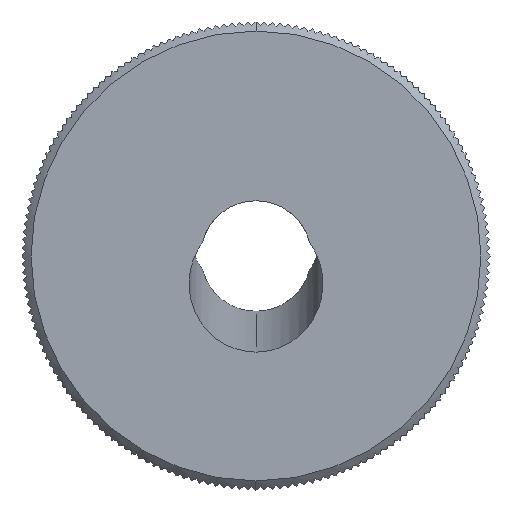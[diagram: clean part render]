
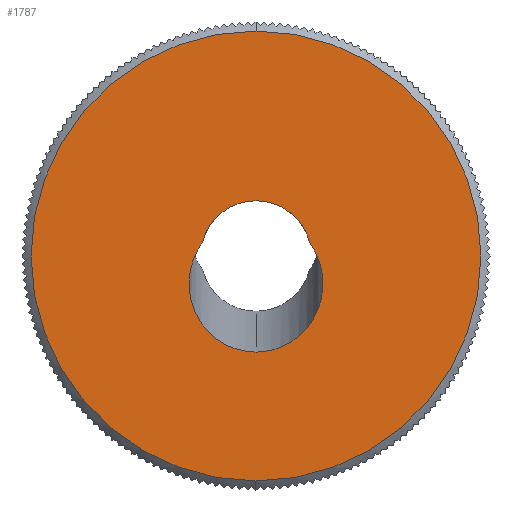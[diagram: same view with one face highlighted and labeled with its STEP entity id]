
A CAD part, left-side view. The second image highlights one B-rep face of the part: STEP entity #1787.
In plain terms, the highlighted planar face has unit normal (-1, 0, 0).
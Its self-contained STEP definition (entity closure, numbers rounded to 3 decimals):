
#241 = VERTEX_POINT ( 'NONE', #2675 ) ;
#1708 = EDGE_LOOP ( 'NONE', ( #4608, #1731, #1779, #1748 ) ) ;
#1711 = EDGE_CURVE ( 'NONE', #241, #4080, #7388, .T. ) ;
#1731 = ORIENTED_EDGE ( 'NONE', *, *, #4122, .T. ) ;
#1748 = ORIENTED_EDGE ( 'NONE', *, *, #4095, .F. ) ;
#1779 = ORIENTED_EDGE ( 'NONE', *, *, #1711, .T. ) ;
#1780 = EDGE_CURVE ( 'NONE', #4099, #4091, #7531, .T. ) ;
#1787 = ADVANCED_FACE ( 'NONE', ( #7571, #7570 ), #7569, .F. ) ;
#1827 = ORIENTED_EDGE ( 'NONE', *, *, #1832, .T. ) ;
#1832 = EDGE_CURVE ( 'NONE', #1891, #1890, #7643, .T. ) ;
#1835 = ORIENTED_EDGE ( 'NONE', *, *, #1984, .T. ) ;
#1890 = VERTEX_POINT ( 'NONE', #7770 ) ;
#1891 = VERTEX_POINT ( 'NONE', #7765 ) ;
#1984 = EDGE_CURVE ( 'NONE', #1890, #1891, #7958, .T. ) ;
#2675 = CARTESIAN_POINT ( 'NONE',  ( -14., 0., -7.392 ) ) ;
#4080 = VERTEX_POINT ( 'NONE', #10358 ) ;
#4091 = VERTEX_POINT ( 'NONE', #10394 ) ;
#4095 = EDGE_CURVE ( 'NONE', #4091, #4080, #10386, .T. ) ;
#4099 = VERTEX_POINT ( 'NONE', #10377 ) ;
#4122 = EDGE_CURVE ( 'NONE', #4099, #241, #10440, .T. ) ;
#4608 = ORIENTED_EDGE ( 'NONE', *, *, #1780, .F. ) ;
#4617 = EDGE_LOOP ( 'NONE', ( #1827, #1835 ) ) ;
#7383 = CARTESIAN_POINT ( 'NONE',  ( -14., 4.124, 1.026 ) ) ;
#7384 = CARTESIAN_POINT ( 'NONE',  ( -14., 7.034, -2.952 ) ) ;
#7386 = CARTESIAN_POINT ( 'NONE',  ( -14., 4.858, -7.392 ) ) ;
#7387 = CARTESIAN_POINT ( 'NONE',  ( -14., 0., -7.392 ) ) ;
#7388 =( BOUNDED_CURVE ( )  B_SPLINE_CURVE ( 3, ( #7387, #7386, #7384, #7383 ),
 .UNSPECIFIED., .F., .T. ) 
 B_SPLINE_CURVE_WITH_KNOTS ( ( 4, 4 ),
 ( 3.142, 5.354 ),
 .UNSPECIFIED. ) 
 CURVE ( )  GEOMETRIC_REPRESENTATION_ITEM ( )  RATIONAL_B_SPLINE_CURVE ( ( 1., 0.632, 0.632, 1. ) ) 
 REPRESENTATION_ITEM ( '' )  );
#7527 = DIRECTION ( 'NONE',  ( 0., 0., 1. ) ) ;
#7528 = DIRECTION ( 'NONE',  ( -1., 0., 0. ) ) ;
#7529 = CARTESIAN_POINT ( 'NONE',  ( -14., 0., 0. ) ) ;
#7530 = AXIS2_PLACEMENT_3D ( 'NONE', #7529, #7528, #7527 ) ;
#7531 = CIRCLE ( 'NONE', #7530, 4.25 ) ;
#7565 = DIRECTION ( 'NONE',  ( 0., 0., -1. ) ) ;
#7566 = DIRECTION ( 'NONE',  ( 1., 0., 0. ) ) ;
#7567 = CARTESIAN_POINT ( 'NONE',  ( -14., 0., 0. ) ) ;
#7568 = AXIS2_PLACEMENT_3D ( 'NONE', #7567, #7566, #7565 ) ;
#7569 = PLANE ( 'NONE',  #7568 ) ;
#7570 = FACE_OUTER_BOUND ( 'NONE', #4617, .T. ) ;
#7571 = FACE_BOUND ( 'NONE', #1708, .T. ) ;
#7640 = DIRECTION ( 'NONE',  ( 0., 0., -1. ) ) ;
#7641 = DIRECTION ( 'NONE',  ( -1., 0., 0. ) ) ;
#7642 = AXIS2_PLACEMENT_3D ( 'NONE', #7650, #7641, #7640 ) ;
#7643 = CIRCLE ( 'NONE', #7642, 17.3 ) ;
#7650 = CARTESIAN_POINT ( 'NONE',  ( -14., 0., 0. ) ) ;
#7765 = CARTESIAN_POINT ( 'NONE',  ( -14., 0., -17.3 ) ) ;
#7770 = CARTESIAN_POINT ( 'NONE',  ( -14., 0., 17.3 ) ) ;
#7954 = DIRECTION ( 'NONE',  ( 0., 0., -1. ) ) ;
#7955 = DIRECTION ( 'NONE',  ( -1., 0., 0. ) ) ;
#7956 = CARTESIAN_POINT ( 'NONE',  ( -14., 0., 0. ) ) ;
#7957 = AXIS2_PLACEMENT_3D ( 'NONE', #7956, #7955, #7954 ) ;
#7958 = CIRCLE ( 'NONE', #7957, 17.3 ) ;
#10358 = CARTESIAN_POINT ( 'NONE',  ( -14., 4.124, 1.026 ) ) ;
#10377 = CARTESIAN_POINT ( 'NONE',  ( -14., -4.124, 1.026 ) ) ;
#10379 = DIRECTION ( 'NONE',  ( 0., 0., 1. ) ) ;
#10380 = DIRECTION ( 'NONE',  ( -1., 0., 0. ) ) ;
#10381 = CARTESIAN_POINT ( 'NONE',  ( -14., 0., 0. ) ) ;
#10382 = AXIS2_PLACEMENT_3D ( 'NONE', #10381, #10380, #10379 ) ;
#10386 = CIRCLE ( 'NONE', #10382, 4.25 ) ;
#10394 = CARTESIAN_POINT ( 'NONE',  ( -14., 0., 4.25 ) ) ;
#10435 = CARTESIAN_POINT ( 'NONE',  ( -14., 0., -7.392 ) ) ;
#10436 = CARTESIAN_POINT ( 'NONE',  ( -14., -4.858, -7.392 ) ) ;
#10437 = CARTESIAN_POINT ( 'NONE',  ( -14., -7.034, -2.952 ) ) ;
#10438 = CARTESIAN_POINT ( 'NONE',  ( -14., -4.124, 1.026 ) ) ;
#10440 =( BOUNDED_CURVE ( )  B_SPLINE_CURVE ( 3, ( #10438, #10437, #10436, #10435 ),
 .UNSPECIFIED., .F., .T. ) 
 B_SPLINE_CURVE_WITH_KNOTS ( ( 4, 4 ),
 ( 0.929, 3.142 ),
 .UNSPECIFIED. ) 
 CURVE ( )  GEOMETRIC_REPRESENTATION_ITEM ( )  RATIONAL_B_SPLINE_CURVE ( ( 1., 0.632, 0.632, 1. ) ) 
 REPRESENTATION_ITEM ( '' )  );
